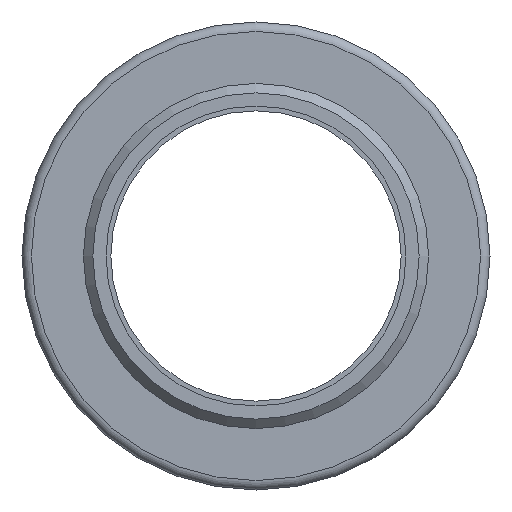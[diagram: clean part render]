
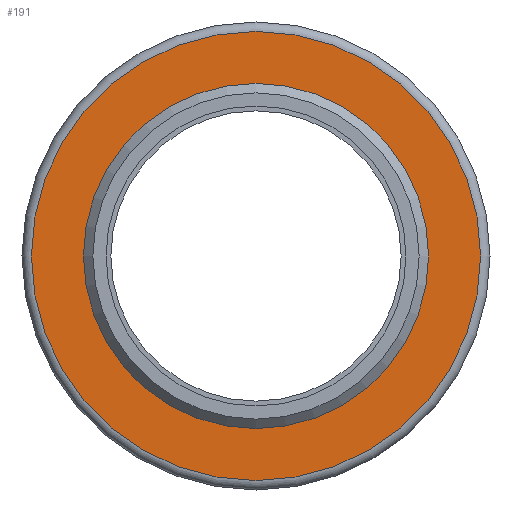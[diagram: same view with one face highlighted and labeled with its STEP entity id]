
A CAD part, front view. The second image highlights one B-rep face of the part: STEP entity #191.
In plain terms, the highlighted planar face has unit normal (0, -1, 0).
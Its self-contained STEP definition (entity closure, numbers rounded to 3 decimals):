
#38=PLANE('',#247);
#61=ORIENTED_EDGE('',*,*,#82,.T.);
#62=ORIENTED_EDGE('',*,*,#81,.F.);
#81=EDGE_CURVE('',#96,#96,#111,.T.);
#82=EDGE_CURVE('',#97,#97,#112,.T.);
#96=VERTEX_POINT('',#358);
#97=VERTEX_POINT('',#361);
#111=CIRCLE('',#246,36.5);
#112=CIRCLE('',#248,47.5);
#136=EDGE_LOOP('',(#61));
#137=EDGE_LOOP('',(#62));
#166=FACE_BOUND('',#136,.T.);
#167=FACE_BOUND('',#137,.T.);
#191=ADVANCED_FACE('',(#166,#167),#38,.T.);
#246=AXIS2_PLACEMENT_3D('',#357,#304,#305);
#247=AXIS2_PLACEMENT_3D('',#359,#306,#307);
#248=AXIS2_PLACEMENT_3D('',#360,#308,#309);
#304=DIRECTION('',(0.,-1.,0.));
#305=DIRECTION('',(0.,0.,-1.));
#306=DIRECTION('',(0.,-1.,0.));
#307=DIRECTION('',(0.,0.,-1.));
#308=DIRECTION('',(0.,-1.,0.));
#309=DIRECTION('',(0.,0.,-1.));
#357=CARTESIAN_POINT('',(0.,0.,0.));
#358=CARTESIAN_POINT('',(0.,0.,-36.5));
#359=CARTESIAN_POINT('',(0.,0.,36.5));
#360=CARTESIAN_POINT('',(0.,0.,0.));
#361=CARTESIAN_POINT('',(0.,0.,-47.5));
